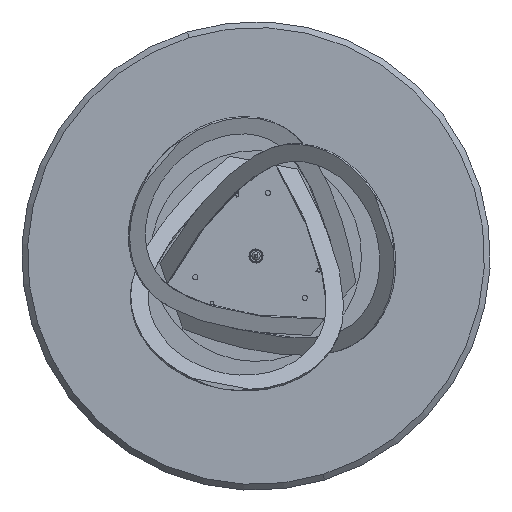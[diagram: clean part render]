
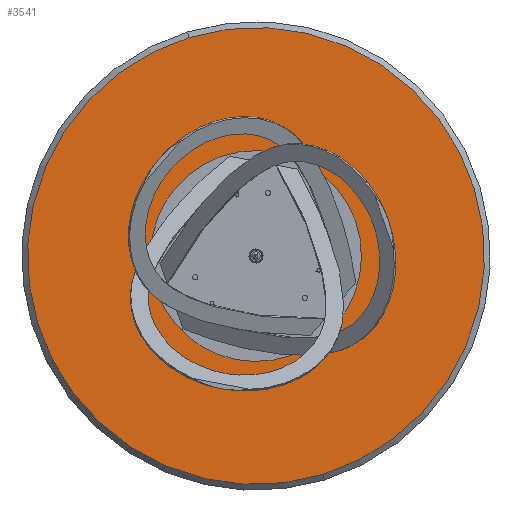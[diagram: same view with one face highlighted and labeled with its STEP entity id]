
A CAD part, front view. The second image highlights one B-rep face of the part: STEP entity #3541.
In plain terms, the highlighted planar face has unit normal (0, -1, 0).
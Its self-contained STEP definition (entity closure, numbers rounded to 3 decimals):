
#146 = FACE_BOUND ( 'NONE', #1517, .T. ) ;
#233 = DIRECTION ( 'NONE',  ( 0., 0., -1. ) ) ;
#273 = FACE_BOUND ( 'NONE', #5271, .T. ) ;
#297 = ORIENTED_EDGE ( 'NONE', *, *, #4474, .T. ) ;
#329 = AXIS2_PLACEMENT_3D ( 'NONE', #8475, #1803, #233 ) ;
#345 = VERTEX_POINT ( 'NONE', #6089 ) ;
#379 = DIRECTION ( 'NONE',  ( 0., -1., 0. ) ) ;
#416 = DIRECTION ( 'NONE',  ( 0., -1., 0. ) ) ;
#471 = AXIS2_PLACEMENT_3D ( 'NONE', #2285, #5064, #4489 ) ;
#480 = EDGE_CURVE ( 'NONE', #2897, #2252, #8462, .T. ) ;
#687 = DIRECTION ( 'NONE',  ( 0., 0., -1. ) ) ;
#907 = DIRECTION ( 'NONE',  ( 0., 0., -1. ) ) ;
#983 = FACE_BOUND ( 'NONE', #6163, .T. ) ;
#1000 = EDGE_CURVE ( 'NONE', #4787, #3155, #6320, .T. ) ;
#1252 = EDGE_CURVE ( 'NONE', #2252, #2897, #7331, .T. ) ;
#1352 = DIRECTION ( 'NONE',  ( 0., -1., 0. ) ) ;
#1413 = CARTESIAN_POINT ( 'NONE',  ( 0., 0., 0. ) ) ;
#1517 = EDGE_LOOP ( 'NONE', ( #3623, #5761 ) ) ;
#1631 = EDGE_CURVE ( 'NONE', #2553, #7162, #8341, .T. ) ;
#1688 = EDGE_LOOP ( 'NONE', ( #297, #2976 ) ) ;
#1803 = DIRECTION ( 'NONE',  ( 0., -1., 0. ) ) ;
#2252 = VERTEX_POINT ( 'NONE', #7550 ) ;
#2256 = FACE_OUTER_BOUND ( 'NONE', #1688, .T. ) ;
#2285 = CARTESIAN_POINT ( 'NONE',  ( 95., 0., -54.848 ) ) ;
#2294 = AXIS2_PLACEMENT_3D ( 'NONE', #3674, #6444, #907 ) ;
#2304 = CIRCLE ( 'NONE', #3457, 3.4 ) ;
#2376 = FACE_BOUND ( 'NONE', #3977, .T. ) ;
#2553 = VERTEX_POINT ( 'NONE', #5780 ) ;
#2581 = ORIENTED_EDGE ( 'NONE', *, *, #7552, .F. ) ;
#2616 = EDGE_CURVE ( 'NONE', #7801, #4086, #3485, .T. ) ;
#2643 = VERTEX_POINT ( 'NONE', #5109 ) ;
#2873 = DIRECTION ( 'NONE',  ( 0., 0., -1. ) ) ;
#2891 = CARTESIAN_POINT ( 'NONE',  ( 0., 0., 106.297 ) ) ;
#2897 = VERTEX_POINT ( 'NONE', #2891 ) ;
#2976 = ORIENTED_EDGE ( 'NONE', *, *, #1000, .T. ) ;
#3155 = VERTEX_POINT ( 'NONE', #6378 ) ;
#3272 = EDGE_CURVE ( 'NONE', #2643, #345, #6322, .T. ) ;
#3457 = AXIS2_PLACEMENT_3D ( 'NONE', #1413, #7643, #4814 ) ;
#3485 = CIRCLE ( 'NONE', #329, 3.4 ) ;
#3541 = ADVANCED_FACE ( 'NONE', ( #983, #2376, #146, #273, #2256 ), #5614, .T. ) ;
#3616 = CARTESIAN_POINT ( 'NONE',  ( 0., 0., 109.697 ) ) ;
#3623 = ORIENTED_EDGE ( 'NONE', *, *, #480, .F. ) ;
#3674 = CARTESIAN_POINT ( 'NONE',  ( 0., 0., 0. ) ) ;
#3977 = EDGE_LOOP ( 'NONE', ( #4064, #4711 ) ) ;
#4064 = ORIENTED_EDGE ( 'NONE', *, *, #7692, .F. ) ;
#4086 = VERTEX_POINT ( 'NONE', #4446 ) ;
#4123 = DIRECTION ( 'NONE',  ( 0., 0., -1. ) ) ;
#4199 = AXIS2_PLACEMENT_3D ( 'NONE', #6272, #8345, #687 ) ;
#4287 = ORIENTED_EDGE ( 'NONE', *, *, #3272, .F. ) ;
#4332 = CARTESIAN_POINT ( 'NONE',  ( 0., 0., 0. ) ) ;
#4377 = DIRECTION ( 'NONE',  ( 0., -1., 0. ) ) ;
#4439 = CARTESIAN_POINT ( 'NONE',  ( 95., 0., -58.248 ) ) ;
#4446 = CARTESIAN_POINT ( 'NONE',  ( -95., 0., -51.448 ) ) ;
#4474 = EDGE_CURVE ( 'NONE', #3155, #4787, #4736, .T. ) ;
#4489 = DIRECTION ( 'NONE',  ( 0., 0., -1. ) ) ;
#4547 = DIRECTION ( 'NONE',  ( 0., 0., -1. ) ) ;
#4711 = ORIENTED_EDGE ( 'NONE', *, *, #1631, .F. ) ;
#4736 = CIRCLE ( 'NONE', #2294, 390. ) ;
#4770 = CIRCLE ( 'NONE', #4199, 3.4 ) ;
#4787 = VERTEX_POINT ( 'NONE', #5428 ) ;
#4814 = DIRECTION ( 'NONE',  ( 0., 0., -1. ) ) ;
#4894 = AXIS2_PLACEMENT_3D ( 'NONE', #5264, #379, #6517 ) ;
#5064 = DIRECTION ( 'NONE',  ( 0., -1., 0. ) ) ;
#5109 = CARTESIAN_POINT ( 'NONE',  ( 0., 0., 3.4 ) ) ;
#5146 = ORIENTED_EDGE ( 'NONE', *, *, #5443, .F. ) ;
#5164 = CARTESIAN_POINT ( 'NONE',  ( 0., 0., 0. ) ) ;
#5264 = CARTESIAN_POINT ( 'NONE',  ( 0., 0., 109.697 ) ) ;
#5271 = EDGE_LOOP ( 'NONE', ( #5146, #4287 ) ) ;
#5428 = CARTESIAN_POINT ( 'NONE',  ( 0., 0., -390. ) ) ;
#5443 = EDGE_CURVE ( 'NONE', #345, #2643, #2304, .T. ) ;
#5581 = DIRECTION ( 'NONE',  ( 0., 0., -1. ) ) ;
#5614 = PLANE ( 'NONE',  #7044 ) ;
#5761 = ORIENTED_EDGE ( 'NONE', *, *, #1252, .F. ) ;
#5773 = CARTESIAN_POINT ( 'NONE',  ( -95., 0., -58.248 ) ) ;
#5780 = CARTESIAN_POINT ( 'NONE',  ( 95., 0., -51.448 ) ) ;
#6046 = AXIS2_PLACEMENT_3D ( 'NONE', #7393, #1352, #4123 ) ;
#6089 = CARTESIAN_POINT ( 'NONE',  ( 0., 0., -3.4 ) ) ;
#6163 = EDGE_LOOP ( 'NONE', ( #8383, #2581 ) ) ;
#6272 = CARTESIAN_POINT ( 'NONE',  ( -95., 0., -54.848 ) ) ;
#6290 = DIRECTION ( 'NONE',  ( 0., -1., 0. ) ) ;
#6320 = CIRCLE ( 'NONE', #6907, 390. ) ;
#6322 = CIRCLE ( 'NONE', #8058, 3.4 ) ;
#6370 = DIRECTION ( 'NONE',  ( 0., -1., 0. ) ) ;
#6378 = CARTESIAN_POINT ( 'NONE',  ( 0., 0., 390. ) ) ;
#6444 = DIRECTION ( 'NONE',  ( 0., -1., 0. ) ) ;
#6517 = DIRECTION ( 'NONE',  ( 0., 0., -1. ) ) ;
#6907 = AXIS2_PLACEMENT_3D ( 'NONE', #4332, #6290, #6933 ) ;
#6933 = DIRECTION ( 'NONE',  ( 0., 0., -1. ) ) ;
#7044 = AXIS2_PLACEMENT_3D ( 'NONE', #7049, #6370, #2873 ) ;
#7049 = CARTESIAN_POINT ( 'NONE',  ( 0., 0., 0. ) ) ;
#7162 = VERTEX_POINT ( 'NONE', #4439 ) ;
#7331 = CIRCLE ( 'NONE', #4894, 3.4 ) ;
#7393 = CARTESIAN_POINT ( 'NONE',  ( 95., 0., -54.848 ) ) ;
#7550 = CARTESIAN_POINT ( 'NONE',  ( 0., 0., 113.097 ) ) ;
#7552 = EDGE_CURVE ( 'NONE', #4086, #7801, #4770, .T. ) ;
#7643 = DIRECTION ( 'NONE',  ( 0., -1., 0. ) ) ;
#7692 = EDGE_CURVE ( 'NONE', #7162, #2553, #8763, .T. ) ;
#7753 = AXIS2_PLACEMENT_3D ( 'NONE', #3616, #4377, #5581 ) ;
#7801 = VERTEX_POINT ( 'NONE', #5773 ) ;
#8058 = AXIS2_PLACEMENT_3D ( 'NONE', #5164, #416, #4547 ) ;
#8341 = CIRCLE ( 'NONE', #6046, 3.4 ) ;
#8345 = DIRECTION ( 'NONE',  ( 0., -1., 0. ) ) ;
#8383 = ORIENTED_EDGE ( 'NONE', *, *, #2616, .F. ) ;
#8462 = CIRCLE ( 'NONE', #7753, 3.4 ) ;
#8475 = CARTESIAN_POINT ( 'NONE',  ( -95., 0., -54.848 ) ) ;
#8763 = CIRCLE ( 'NONE', #471, 3.4 ) ;
